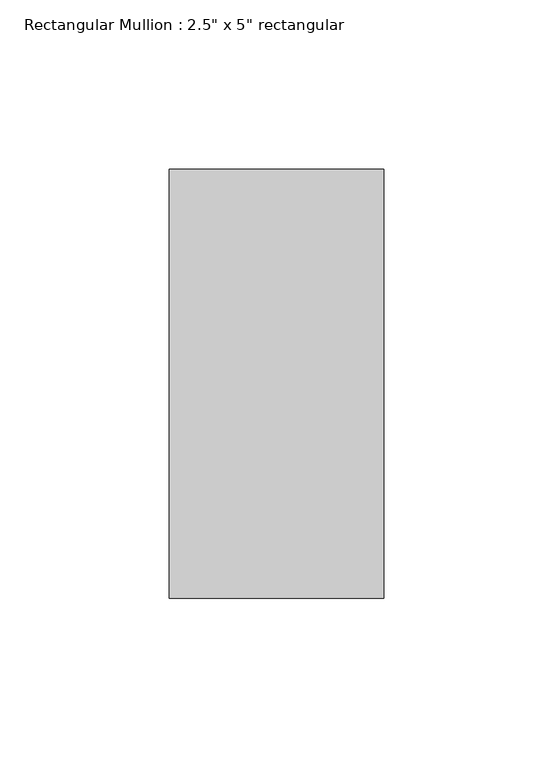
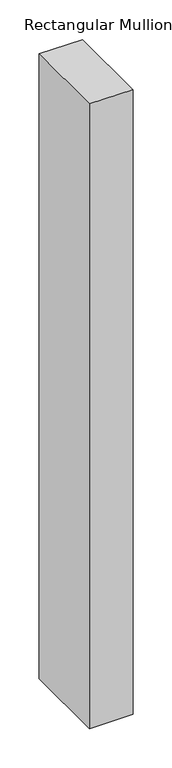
"""IFC4 building model written with IfcOpenShell, lengths in millimetres: member geometry."""

from ifc_helpers import new_model, si_unit, frame, origin, place, context, project, spatial, polyline, outline, extrude, source, transform, mapped, element, save


def member_6f14002f(model_context):
    return source(origin(), model_context, "Body", "SweptSolid", [
        extrude(outline(polyline([(0.0, 0.0), (0.6365149, -63.5), (-965.7547426, -63.5), (-965.5970192, 0.0), (0.0, 0.0)])), frame((0.0, -63.5, 0.0), z_axis=(0.0, 1.0, 0.0), x_axis=(0.0, 0.0, 1.0)), (0.0, 0.0, 1.0), 127.0),
    ])


if __name__ == "__main__":
    model = new_model("IFC4")
    model_context = context("Model", 3, world=origin())
    ifc_project = project(units=[si_unit("LENGTHUNIT", "METRE", prefix="MILLI")], contexts=[model_context])
    site = spatial("IfcSite", under=ifc_project)
    building = spatial("IfcBuilding", under=site)
    placement = place(None, origin())
    member_shape = member_6f14002f(model_context)
    element("IfcMember", 1, ObjectType="Rectangular Mullion : 2.5\" x 5\" rectangular", at=placement, inside=building, context=model_context, shape_type="MappedRepresentation", body=[
        mapped(member_shape, transform((0.0, 0.0, 0.0), x_axis=(1.0, 0.0, 0.0), y_axis=(0.0, 1.0, 0.0), z_axis=(0.0, 0.0, 1.0))),
    ])
    save(model, "model.ifc")
